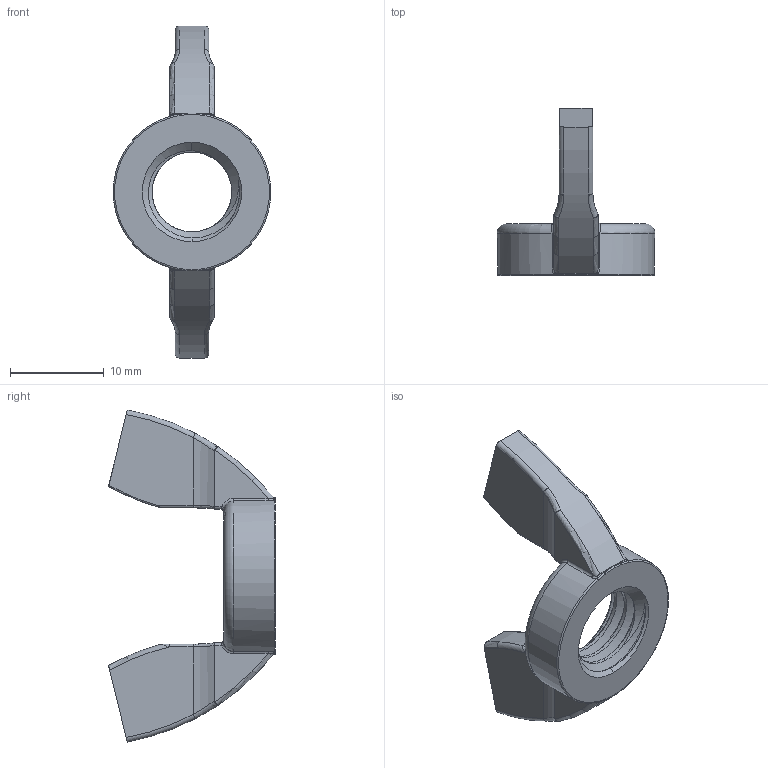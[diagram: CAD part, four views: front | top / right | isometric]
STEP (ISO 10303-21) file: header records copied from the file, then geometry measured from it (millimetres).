
FILE_DESCRIPTION (( 'STEP AP203' ), '1' );
FILE_NAME ('TANC-304-M10.STEP', '2026-08-24T08:06:27', ( '' ), ( '' ), 'SwSTEP 2.0', 'SolidWorks 2020', '' );
FILE_SCHEMA (( 'CONFIG_CONTROL_DESIGN' ));
Length unit declared in the file: millimetre
Products named in the file (1): TANC-304-M10
Bounding box: 16.78 x 17.8 x 35.4 mm (x, y, z)
Volume: 1679.6 mm3; surface area: 1474 mm2
Topology: 1 solids, 1 shells, 161 faces, 405 edges, 230 vertices
Faces by surface type: bspline 65, cylinder 46, torus 30, plane 16, cone 4
Entity records: 7454 total; most frequent: CARTESIAN_POINT 4153, ORIENTED_EDGE 778, DIRECTION 549, EDGE_CURVE 389, AXIS2_PLACEMENT_3D 239, VERTEX_POINT 230, B_SPLINE_CURVE_WITH_KNOTS 168, EDGE_LOOP 163
